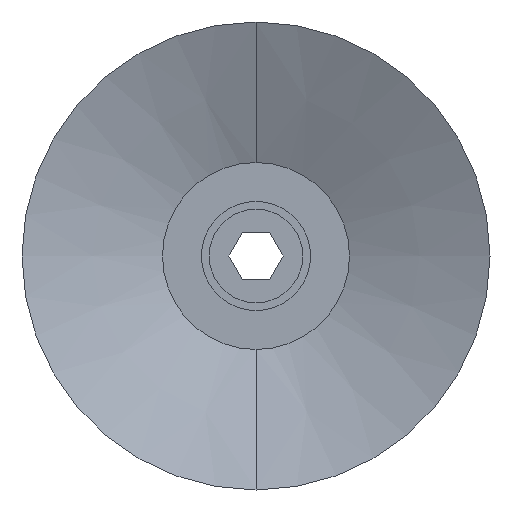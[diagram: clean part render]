
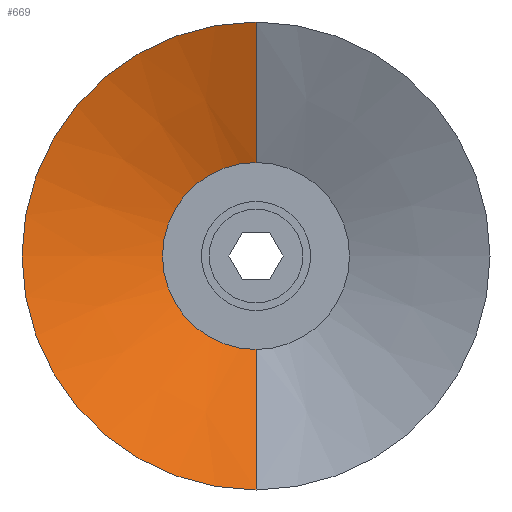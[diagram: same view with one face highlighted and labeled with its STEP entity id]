
A CAD part, front view. The second image highlights one B-rep face of the part: STEP entity #669.
In plain terms, the highlighted conical face has half-angle 67.519 degrees and reference radius 5.992 mm.
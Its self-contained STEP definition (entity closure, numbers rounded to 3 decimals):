
#22 = DIRECTION ( 'NONE',  ( 0., -0.382, 0.924 ) ) ;
#23 = CARTESIAN_POINT ( 'NONE',  ( 0., 3.728, 5.992 ) ) ;
#31 = DIRECTION ( 'NONE',  ( 0., 0., -1. ) ) ;
#32 = DIRECTION ( 'NONE',  ( 0., -1., 0. ) ) ;
#33 = CARTESIAN_POINT ( 'NONE',  ( 0., 3.728, 0. ) ) ;
#80 = CARTESIAN_POINT ( 'NONE',  ( 0., 0., 15. ) ) ;
#125 = CARTESIAN_POINT ( 'NONE',  ( 0., 3.728, 5.992 ) ) ;
#135 = CARTESIAN_POINT ( 'NONE',  ( 0., 0., -15. ) ) ;
#181 = CARTESIAN_POINT ( 'NONE',  ( 0., 3.728, 0. ) ) ;
#205 = DIRECTION ( 'NONE',  ( 0., 0., -1. ) ) ;
#206 = CARTESIAN_POINT ( 'NONE',  ( 0., 3.728, -5.992 ) ) ;
#220 = DIRECTION ( 'NONE',  ( 0., -1., 0. ) ) ;
#285 = DIRECTION ( 'NONE',  ( 0., 0., -1. ) ) ;
#288 = CARTESIAN_POINT ( 'NONE',  ( 0., 0., 0. ) ) ;
#294 = DIRECTION ( 'NONE',  ( 0., -1., 0. ) ) ;
#382 = VERTEX_POINT ( 'NONE', #125 ) ;
#388 = VERTEX_POINT ( 'NONE', #80 ) ;
#393 = VERTEX_POINT ( 'NONE', #135 ) ;
#441 = VERTEX_POINT ( 'NONE', #206 ) ;
#460 = EDGE_LOOP ( 'NONE', ( #532, #572, #526, #522 ) ) ;
#522 = ORIENTED_EDGE ( 'NONE', *, *, #761, .F. ) ;
#526 = ORIENTED_EDGE ( 'NONE', *, *, #710, .T. ) ;
#532 = ORIENTED_EDGE ( 'NONE', *, *, #735, .F. ) ;
#572 = ORIENTED_EDGE ( 'NONE', *, *, #739, .T. ) ;
#599 = AXIS2_PLACEMENT_3D ( 'NONE', #288, #294, #285 ) ;
#613 = AXIS2_PLACEMENT_3D ( 'NONE', #33, #32, #31 ) ;
#669 = ADVANCED_FACE ( 'NONE', ( #1034 ), #1040, .F. ) ;
#710 = EDGE_CURVE ( 'NONE', #388, #393, #1108, .T. ) ;
#735 = EDGE_CURVE ( 'NONE', #382, #441, #1145, .T. ) ;
#739 = EDGE_CURVE ( 'NONE', #382, #388, #917, .T. ) ;
#761 = EDGE_CURVE ( 'NONE', #441, #393, #949, .T. ) ;
#784 = AXIS2_PLACEMENT_3D ( 'NONE', #181, #220, #205 ) ;
#849 = CARTESIAN_POINT ( 'NONE',  ( 0., 3.728, -5.992 ) ) ;
#850 = DIRECTION ( 'NONE',  ( 0., -0.382, -0.924 ) ) ;
#917 = LINE ( 'NONE', #23, #918 ) ;
#918 = VECTOR ( 'NONE', #22, 1000. ) ;
#949 = LINE ( 'NONE', #849, #950 ) ;
#950 = VECTOR ( 'NONE', #850, 1000. ) ;
#1034 = FACE_OUTER_BOUND ( 'NONE', #460, .T. ) ;
#1040 = CONICAL_SURFACE ( 'NONE', #784, 5.992, 1.178 ) ;
#1108 = CIRCLE ( 'NONE', #599, 15. ) ;
#1145 = CIRCLE ( 'NONE', #613, 5.992 ) ;
